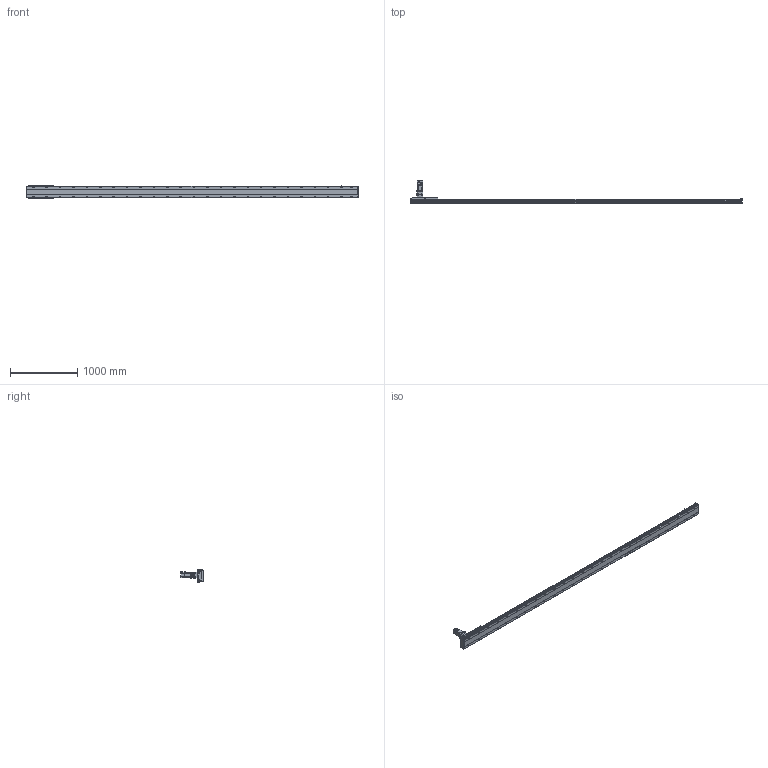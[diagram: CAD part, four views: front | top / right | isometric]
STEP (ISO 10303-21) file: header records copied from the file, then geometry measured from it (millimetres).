
FILE_DESCRIPTION(/* description */ ('STEP AP203'),/* implementation_level */ '2;1');
FILE_NAME(/* name */ 'SHS17A-L13-S4500-BC-T75-C1-N(0)',/* time_stamp */ '2023-03-27T08:59:12+02:00',/* author */ ('License CC BY-ND 4.0'),/* organization */ ('CADENAS'),/* preprocessor_version */ 'ST-DEVELOPER v19.3',/* originating_system */ 'PARTsolutions',/* authorisation */ ' ');
FILE_SCHEMA (('CONFIG_CONTROL_DESIGN'));
Length unit declared in the file: millimetre
Products named in the file (7): SHS17A-L13-S4500-BC-T75-C1-N(0); PSC140-sensor; SHS17A-S4500(0)_body2; T75-p1; SHS17A-S4500_body3; SHS17A-S4500-C1(0)_slider; SHS17A-S4500-C1(0)_body
Assembly tree (13 placements, depth 2):
  SHS17A-L13-S4500-BC-T75-C1-N(0)
    PSC140-sensor  x3
    SHS17A-S4500(0)_body2  x6
    T75-p1
    SHS17A-S4500_body3
    SHS17A-S4500-C1(0)_slider
    SHS17A-S4500-C1(0)_body
Bounding box: 4954 x 333.8 x 193.4 mm (x, y, z)
Volume: 33444237.6 mm3; surface area: 3820101.5 mm2
Topology: 13 solids, 13 shells, 2456 faces, 6276 edges, 4085 vertices
Faces by surface type: plane 1494, cylinder 855, cone 104, torus 3
Full cylindrical faces by diameter (mm): 2.8 x3, 4.134 x24, 4.5 x2, 4.6 x3, 4.917 x15, 5.5 x48, 6 x7, 6.5 x24, 6.647 x58, 6.8 x9, 8 x3, 8.5 x50, 10 x28, 11 x4, 14 x50, 22 x1, 24 x1, 24.2 x1, 28 x1, 28.2 x1, 28.8 x1, 29.8 x1, 48.542 x1, 68 x1, 70 x1, 78 x1, 80 x2
Entity records: 50654 total; most frequent: CARTESIAN_POINT 10238, DIRECTION 8173, ORIENTED_EDGE 7940, EDGE_CURVE 3970, AXIS2_PLACEMENT_3D 2932, VERTEX_POINT 2797, EDGE_LOOP 2377, FACE_BOUND 2377
